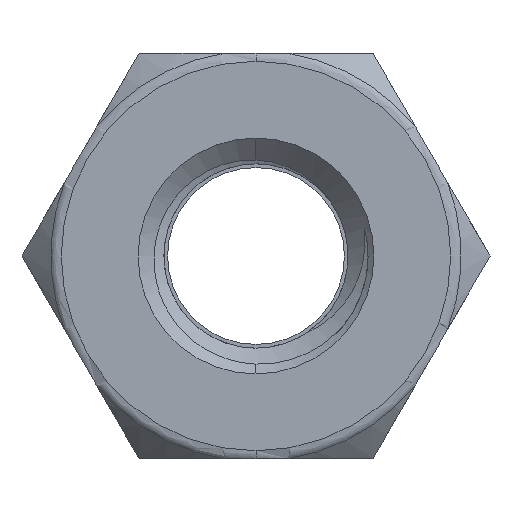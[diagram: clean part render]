
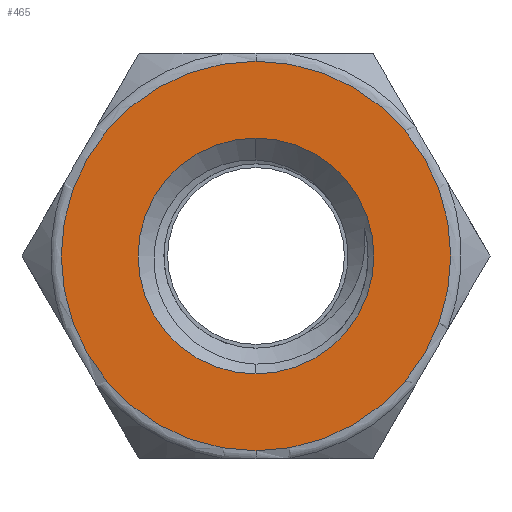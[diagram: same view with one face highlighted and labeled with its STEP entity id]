
A CAD part, front view. The second image highlights one B-rep face of the part: STEP entity #465.
In plain terms, the highlighted planar face has unit normal (0, -1, 0).
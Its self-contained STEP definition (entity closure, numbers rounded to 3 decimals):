
#47 = CARTESIAN_POINT ( 'NONE',  ( 0., -1.5, -1.6 ) ) ;
#127 = DIRECTION ( 'NONE',  ( 0., 1., 0. ) ) ;
#171 = CARTESIAN_POINT ( 'NONE',  ( 0., -1.5, -2.643 ) ) ;
#359 = DIRECTION ( 'NONE',  ( 0., 0., 1. ) ) ;
#429 = ORIENTED_EDGE ( 'NONE', *, *, #2132, .F. ) ;
#465 = ADVANCED_FACE ( 'NONE', ( #3229, #2095 ), #2939, .F. ) ;
#512 = ORIENTED_EDGE ( 'NONE', *, *, #3272, .T. ) ;
#687 = DIRECTION ( 'NONE',  ( 0., 0., 1. ) ) ;
#775 = EDGE_CURVE ( 'NONE', #1134, #3500, #3414, .T. ) ;
#824 = EDGE_LOOP ( 'NONE', ( #429, #916 ) ) ;
#916 = ORIENTED_EDGE ( 'NONE', *, *, #775, .F. ) ;
#1003 = AXIS2_PLACEMENT_3D ( 'NONE', #1246, #2953, #359 ) ;
#1110 = CARTESIAN_POINT ( 'NONE',  ( 0., -1.5, 1.6 ) ) ;
#1134 = VERTEX_POINT ( 'NONE', #47 ) ;
#1155 = EDGE_CURVE ( 'NONE', #2349, #2507, #3231, .T. ) ;
#1246 = CARTESIAN_POINT ( 'NONE',  ( 0., -1.5, 0. ) ) ;
#1461 = DIRECTION ( 'NONE',  ( 0., -1., 0. ) ) ;
#1520 = CARTESIAN_POINT ( 'NONE',  ( 0., -1.5, 2.643 ) ) ;
#1545 = DIRECTION ( 'NONE',  ( 0., 0., -1. ) ) ;
#1603 = ORIENTED_EDGE ( 'NONE', *, *, #1155, .T. ) ;
#1651 = CIRCLE ( 'NONE', #3160, 1.6 ) ;
#1784 = AXIS2_PLACEMENT_3D ( 'NONE', #1877, #3606, #1545 ) ;
#1877 = CARTESIAN_POINT ( 'NONE',  ( 0., -1.5, 0. ) ) ;
#2086 = AXIS2_PLACEMENT_3D ( 'NONE', #2394, #127, #687 ) ;
#2095 = FACE_BOUND ( 'NONE', #824, .T. ) ;
#2132 = EDGE_CURVE ( 'NONE', #3500, #1134, #1651, .T. ) ;
#2147 = CIRCLE ( 'NONE', #1003, 2.643 ) ;
#2349 = VERTEX_POINT ( 'NONE', #1520 ) ;
#2359 = CARTESIAN_POINT ( 'NONE',  ( 0., -1.5, 0. ) ) ;
#2378 = DIRECTION ( 'NONE',  ( 0., 0., 1. ) ) ;
#2394 = CARTESIAN_POINT ( 'NONE',  ( 0., -1.5, 0. ) ) ;
#2507 = VERTEX_POINT ( 'NONE', #171 ) ;
#2592 = CARTESIAN_POINT ( 'NONE',  ( 0., -1.5, 0. ) ) ;
#2929 = DIRECTION ( 'NONE',  ( 0., 0., -1. ) ) ;
#2939 = PLANE ( 'NONE',  #2086 ) ;
#2953 = DIRECTION ( 'NONE',  ( 0., -1., 0. ) ) ;
#3160 = AXIS2_PLACEMENT_3D ( 'NONE', #2359, #1461, #2929 ) ;
#3226 = AXIS2_PLACEMENT_3D ( 'NONE', #2592, #3526, #2378 ) ;
#3229 = FACE_OUTER_BOUND ( 'NONE', #3233, .T. ) ;
#3231 = CIRCLE ( 'NONE', #3226, 2.643 ) ;
#3233 = EDGE_LOOP ( 'NONE', ( #1603, #512 ) ) ;
#3272 = EDGE_CURVE ( 'NONE', #2507, #2349, #2147, .T. ) ;
#3414 = CIRCLE ( 'NONE', #1784, 1.6 ) ;
#3500 = VERTEX_POINT ( 'NONE', #1110 ) ;
#3526 = DIRECTION ( 'NONE',  ( 0., -1., 0. ) ) ;
#3606 = DIRECTION ( 'NONE',  ( 0., -1., 0. ) ) ;
